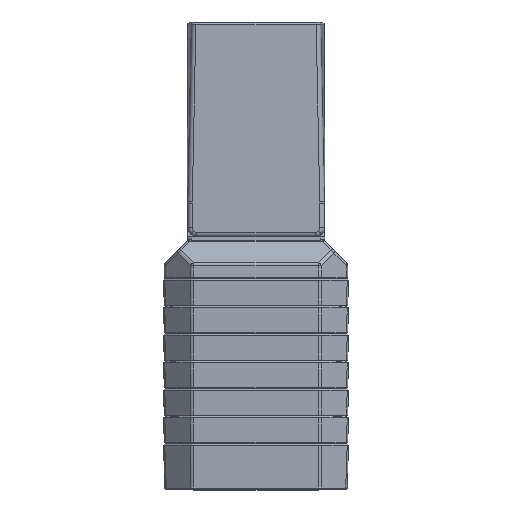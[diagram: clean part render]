
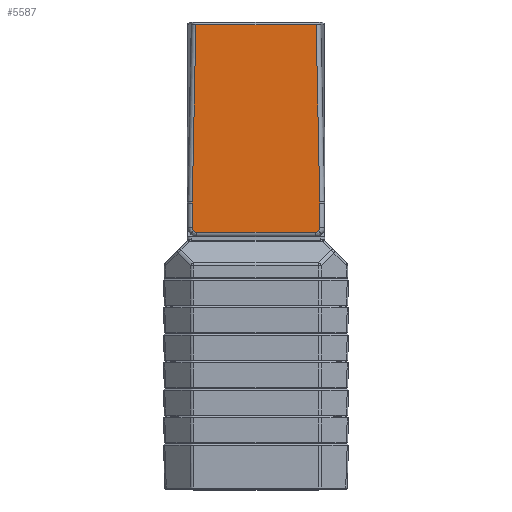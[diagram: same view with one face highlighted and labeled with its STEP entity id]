
A CAD part, top view. The second image highlights one B-rep face of the part: STEP entity #5587.
In plain terms, the highlighted planar face has unit normal (0, 0, 1) as drawn and (0, 1, 0) by its records, which use the part's own axes.
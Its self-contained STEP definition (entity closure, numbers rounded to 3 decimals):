
#297 = LINE ( 'NONE', #15640, #16306 ) ;
#335 = EDGE_CURVE ( 'NONE', #5949, #15781, #4566, .T. ) ;
#468 = VECTOR ( 'NONE', #12463, 1000. ) ;
#515 = CARTESIAN_POINT ( 'NONE',  ( 34.761, 37.5, -11.73 ) ) ;
#1185 = CARTESIAN_POINT ( 'NONE',  ( -34.755, 37.5, -12.016 ) ) ;
#1244 = CARTESIAN_POINT ( 'NONE',  ( 32.968, 37.5, 4.789 ) ) ;
#1511 = VERTEX_POINT ( 'NONE', #7700 ) ;
#1533 = CARTESIAN_POINT ( 'NONE',  ( 37.5, 37.5, 4.789 ) ) ;
#1625 = CARTESIAN_POINT ( 'NONE',  ( -34.794, 37.5, 2.285 ) ) ;
#1725 = ORIENTED_EDGE ( 'NONE', *, *, #6584, .T. ) ;
#1812 = CARTESIAN_POINT ( 'NONE',  ( -34.064, 37.5, 4.055 ) ) ;
#1861 = CARTESIAN_POINT ( 'NONE',  ( 34.755, 37.5, -12.016 ) ) ;
#2009 = ORIENTED_EDGE ( 'NONE', *, *, #5807, .T. ) ;
#2050 = CARTESIAN_POINT ( 'NONE',  ( -33.589, 37.5, 4.531 ) ) ;
#2420 = CARTESIAN_POINT ( 'NONE',  ( 34.064, 37.5, 4.055 ) ) ;
#2747 = VERTEX_POINT ( 'NONE', #12515 ) ;
#3240 = EDGE_CURVE ( 'NONE', #15466, #2747, #11089, .T. ) ;
#3312 = VECTOR ( 'NONE', #9068, 1000. ) ;
#3607 = CARTESIAN_POINT ( 'NONE',  ( -32.805, 37.5, -108.47 ) ) ;
#3686 =( BOUNDED_CURVE ( )  B_SPLINE_CURVE ( 3, ( #12640, #1244, #13906, #2420 ),
 .UNSPECIFIED., .F., .T. ) 
 B_SPLINE_CURVE_WITH_KNOTS ( ( 4, 4 ),
 ( 5.497, 6.283 ),
 .UNSPECIFIED. ) 
 CURVE ( )  GEOMETRIC_REPRESENTATION_ITEM ( )  RATIONAL_B_SPLINE_CURVE ( ( 1., 0.949, 0.949, 1. ) ) 
 REPRESENTATION_ITEM ( '' )  );
#3789 = CARTESIAN_POINT ( 'NONE',  ( -34.764, 37.5, -11.445 ) ) ;
#3823 = CARTESIAN_POINT ( 'NONE',  ( -34.064, 37.5, 4.055 ) ) ;
#3827 = CARTESIAN_POINT ( 'NONE',  ( 34.539, 37.5, 3.579 ) ) ;
#3880 = VERTEX_POINT ( 'NONE', #13631 ) ;
#3886 = DIRECTION ( 'NONE',  ( 1., 0., 0. ) ) ;
#4078 = EDGE_CURVE ( 'NONE', #15781, #16403, #13006, .T. ) ;
#4234 = CARTESIAN_POINT ( 'NONE',  ( -34.064, 37.5, 4.055 ) ) ;
#4329 = CARTESIAN_POINT ( 'NONE',  ( -32.968, 37.5, 4.789 ) ) ;
#4566 =( BOUNDED_CURVE ( )  B_SPLINE_CURVE ( 3, ( #1812, #2050, #4329, #16130 ),
 .UNSPECIFIED., .F., .T. ) 
 B_SPLINE_CURVE_WITH_KNOTS ( ( 4, 4 ),
 ( 0., 0.786 ),
 .UNSPECIFIED. ) 
 CURVE ( )  GEOMETRIC_REPRESENTATION_ITEM ( )  RATIONAL_B_SPLINE_CURVE ( ( 1., 0.949, 0.949, 1. ) ) 
 REPRESENTATION_ITEM ( '' )  );
#4966 = DIRECTION ( 'NONE',  ( -0.02, 0., -1. ) ) ;
#5004 = CARTESIAN_POINT ( 'NONE',  ( 32.295, 37.5, 4.789 ) ) ;
#5109 = CARTESIAN_POINT ( 'NONE',  ( 34.794, 37.5, 2.285 ) ) ;
#5278 = DIRECTION ( 'NONE',  ( 0., 0., -1. ) ) ;
#5329 = AXIS2_PLACEMENT_3D ( 'NONE', #6579, #11702, #5278 ) ;
#5587 = ADVANCED_FACE ( 'NONE', ( #9348 ), #7669, .F. ) ;
#5649 = CARTESIAN_POINT ( 'NONE',  ( -34.805, 37.5, 7.342 ) ) ;
#5652 = CARTESIAN_POINT ( 'NONE',  ( -34.795, 37.5, 2.958 ) ) ;
#5807 = EDGE_CURVE ( 'NONE', #8447, #15646, #11185, .T. ) ;
#5949 = VERTEX_POINT ( 'NONE', #3823 ) ;
#6198 = CARTESIAN_POINT ( 'NONE',  ( -34.761, 37.5, -11.73 ) ) ;
#6579 = CARTESIAN_POINT ( 'NONE',  ( 37.5, 37.5, 7.5 ) ) ;
#6584 = EDGE_CURVE ( 'NONE', #15203, #1511, #10252, .T. ) ;
#6777 = ORIENTED_EDGE ( 'NONE', *, *, #7532, .T. ) ;
#7417 = CARTESIAN_POINT ( 'NONE',  ( 34.765, 37.5, -11.16 ) ) ;
#7532 = EDGE_CURVE ( 'NONE', #1511, #14636, #297, .T. ) ;
#7575 = ORIENTED_EDGE ( 'NONE', *, *, #4078, .T. ) ;
#7669 = PLANE ( 'NONE',  #5329 ) ;
#7700 = CARTESIAN_POINT ( 'NONE',  ( 34.794, 37.5, 2.285 ) ) ;
#7765 = CARTESIAN_POINT ( 'NONE',  ( -34.765, 37.5, -11.16 ) ) ;
#7818 = ORIENTED_EDGE ( 'NONE', *, *, #13035, .T. ) ;
#7853 = VECTOR ( 'NONE', #4966, 1000. ) ;
#8102 = ORIENTED_EDGE ( 'NONE', *, *, #9431, .T. ) ;
#8447 = VERTEX_POINT ( 'NONE', #8543 ) ;
#8543 = CARTESIAN_POINT ( 'NONE',  ( 32.805, 37.5, -108.47 ) ) ;
#9068 = DIRECTION ( 'NONE',  ( -0.02, 0., 1. ) ) ;
#9182 = CARTESIAN_POINT ( 'NONE',  ( -34.794, 37.5, 2.285 ) ) ;
#9227 = EDGE_LOOP ( 'NONE', ( #7818, #2009, #16491, #15945, #13242, #12943, #16019, #7575, #14029, #1725, #6777, #8102 ) ) ;
#9346 = CARTESIAN_POINT ( 'NONE',  ( -32.295, 37.5, 4.789 ) ) ;
#9348 = FACE_OUTER_BOUND ( 'NONE', #9227, .T. ) ;
#9431 = EDGE_CURVE ( 'NONE', #14636, #3880, #16151, .T. ) ;
#10252 =( BOUNDED_CURVE ( )  B_SPLINE_CURVE ( 3, ( #14038, #3827, #15241, #5109 ),
 .UNSPECIFIED., .F., .T. ) 
 B_SPLINE_CURVE_WITH_KNOTS ( ( 4, 4 ),
 ( 0., 0.786 ),
 .UNSPECIFIED. ) 
 CURVE ( )  GEOMETRIC_REPRESENTATION_ITEM ( )  RATIONAL_B_SPLINE_CURVE ( ( 1., 0.949, 0.949, 1. ) ) 
 REPRESENTATION_ITEM ( '' )  );
#10740 = DIRECTION ( 'NONE',  ( -0.002, 0., 1. ) ) ;
#11089 =( BOUNDED_CURVE ( )  B_SPLINE_CURVE ( 3, ( #1185, #6198, #3789, #7765 ),
 .UNSPECIFIED., .F., .T. ) 
 B_SPLINE_CURVE_WITH_KNOTS ( ( 4, 4 ),
 ( 3.133, 3.151 ),
 .UNSPECIFIED. ) 
 CURVE ( )  GEOMETRIC_REPRESENTATION_ITEM ( )  RATIONAL_B_SPLINE_CURVE ( ( 1., 1., 1., 1. ) ) 
 REPRESENTATION_ITEM ( '' )  );
#11185 = LINE ( 'NONE', #13638, #468 ) ;
#11412 = EDGE_CURVE ( 'NONE', #15646, #15466, #12790, .T. ) ;
#11702 = DIRECTION ( 'NONE',  ( 0., -1., 0. ) ) ;
#12092 = CARTESIAN_POINT ( 'NONE',  ( -34.539, 37.5, 3.579 ) ) ;
#12463 = DIRECTION ( 'NONE',  ( -1., 0., 0. ) ) ;
#12515 = CARTESIAN_POINT ( 'NONE',  ( -34.765, 37.5, -11.16 ) ) ;
#12640 = CARTESIAN_POINT ( 'NONE',  ( 32.295, 37.5, 4.789 ) ) ;
#12654 = LINE ( 'NONE', #14298, #7853 ) ;
#12761 = VECTOR ( 'NONE', #3886, 1000. ) ;
#12790 = LINE ( 'NONE', #12867, #3312 ) ;
#12867 = CARTESIAN_POINT ( 'NONE',  ( -35.12, 37.5, 6.032 ) ) ;
#12872 =( BOUNDED_CURVE ( )  B_SPLINE_CURVE ( 3, ( #1625, #5652, #12092, #4234 ),
 .UNSPECIFIED., .F., .T. ) 
 B_SPLINE_CURVE_WITH_KNOTS ( ( 4, 4 ),
 ( 5.497, 6.283 ),
 .UNSPECIFIED. ) 
 CURVE ( )  GEOMETRIC_REPRESENTATION_ITEM ( )  RATIONAL_B_SPLINE_CURVE ( ( 1., 0.949, 0.949, 1. ) ) 
 REPRESENTATION_ITEM ( '' )  );
#12943 = ORIENTED_EDGE ( 'NONE', *, *, #16478, .T. ) ;
#13006 = LINE ( 'NONE', #1533, #12761 ) ;
#13035 = EDGE_CURVE ( 'NONE', #3880, #8447, #12654, .T. ) ;
#13242 = ORIENTED_EDGE ( 'NONE', *, *, #13565, .T. ) ;
#13565 = EDGE_CURVE ( 'NONE', #2747, #14351, #14277, .T. ) ;
#13631 = CARTESIAN_POINT ( 'NONE',  ( 34.755, 37.5, -12.016 ) ) ;
#13638 = CARTESIAN_POINT ( 'NONE',  ( 37.5, 37.5, -108.47 ) ) ;
#13906 = CARTESIAN_POINT ( 'NONE',  ( 33.589, 37.5, 4.531 ) ) ;
#14029 = ORIENTED_EDGE ( 'NONE', *, *, #15590, .T. ) ;
#14038 = CARTESIAN_POINT ( 'NONE',  ( 34.064, 37.5, 4.055 ) ) ;
#14277 = LINE ( 'NONE', #5649, #14322 ) ;
#14298 = CARTESIAN_POINT ( 'NONE',  ( 32.785, 37.5, -109.434 ) ) ;
#14322 = VECTOR ( 'NONE', #10740, 1000. ) ;
#14351 = VERTEX_POINT ( 'NONE', #9182 ) ;
#14387 = DIRECTION ( 'NONE',  ( -0.002, 0., -1. ) ) ;
#14436 = CARTESIAN_POINT ( 'NONE',  ( 34.764, 37.5, -11.445 ) ) ;
#14636 = VERTEX_POINT ( 'NONE', #7417 ) ;
#15203 = VERTEX_POINT ( 'NONE', #16449 ) ;
#15241 = CARTESIAN_POINT ( 'NONE',  ( 34.795, 37.5, 2.958 ) ) ;
#15466 = VERTEX_POINT ( 'NONE', #16252 ) ;
#15590 = EDGE_CURVE ( 'NONE', #16403, #15203, #3686, .T. ) ;
#15640 = CARTESIAN_POINT ( 'NONE',  ( 34.765, 37.5, -11.159 ) ) ;
#15646 = VERTEX_POINT ( 'NONE', #3607 ) ;
#15781 = VERTEX_POINT ( 'NONE', #9346 ) ;
#15854 = CARTESIAN_POINT ( 'NONE',  ( 34.765, 37.5, -11.16 ) ) ;
#15945 = ORIENTED_EDGE ( 'NONE', *, *, #3240, .T. ) ;
#16019 = ORIENTED_EDGE ( 'NONE', *, *, #335, .T. ) ;
#16130 = CARTESIAN_POINT ( 'NONE',  ( -32.295, 37.5, 4.789 ) ) ;
#16151 =( BOUNDED_CURVE ( )  B_SPLINE_CURVE ( 3, ( #15854, #14436, #515, #1861 ),
 .UNSPECIFIED., .F., .T. ) 
 B_SPLINE_CURVE_WITH_KNOTS ( ( 4, 4 ),
 ( 3.133, 3.151 ),
 .UNSPECIFIED. ) 
 CURVE ( )  GEOMETRIC_REPRESENTATION_ITEM ( )  RATIONAL_B_SPLINE_CURVE ( ( 1., 1., 1., 1. ) ) 
 REPRESENTATION_ITEM ( '' )  );
#16252 = CARTESIAN_POINT ( 'NONE',  ( -34.755, 37.5, -12.016 ) ) ;
#16306 = VECTOR ( 'NONE', #14387, 1000. ) ;
#16403 = VERTEX_POINT ( 'NONE', #5004 ) ;
#16449 = CARTESIAN_POINT ( 'NONE',  ( 34.064, 37.5, 4.055 ) ) ;
#16478 = EDGE_CURVE ( 'NONE', #14351, #5949, #12872, .T. ) ;
#16491 = ORIENTED_EDGE ( 'NONE', *, *, #11412, .T. ) ;
